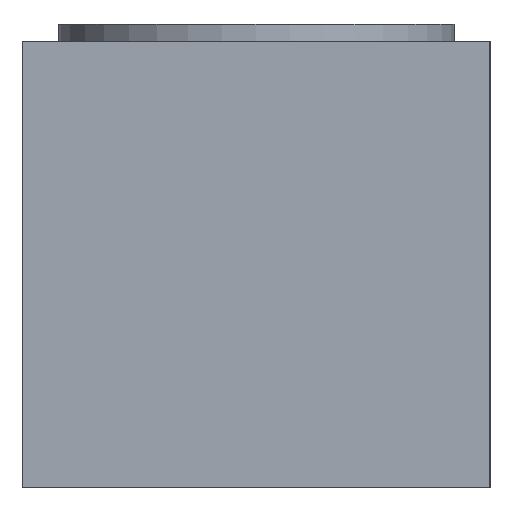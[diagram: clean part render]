
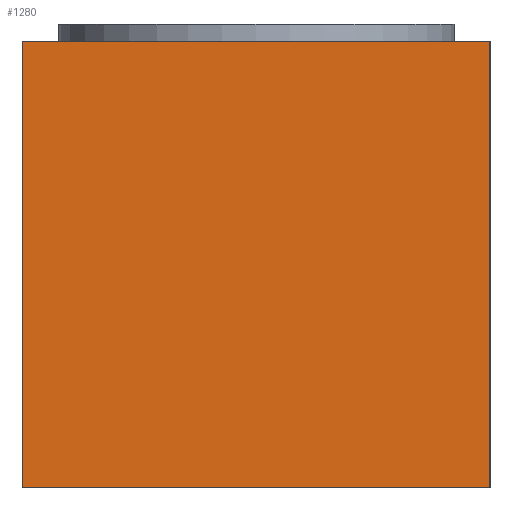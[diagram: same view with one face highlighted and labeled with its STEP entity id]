
A CAD part, left-side view. The second image highlights one B-rep face of the part: STEP entity #1280.
In plain terms, the highlighted planar face has unit normal (-1, 0, 0) as drawn and (1, 0, 0) by its records, which use the part's own axes.
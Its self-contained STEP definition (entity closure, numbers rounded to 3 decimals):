
#5 = DIRECTION ( 'NONE',  ( 0., 1., 0. ) ) ;
#79 = VECTOR ( 'NONE', #1978, 1000. ) ;
#90 = AXIS2_PLACEMENT_3D ( 'NONE', #1297, #343, #506 ) ;
#343 = DIRECTION ( 'NONE',  ( -1., 0., 0. ) ) ;
#368 = ORIENTED_EDGE ( 'NONE', *, *, #1012, .F. ) ;
#383 = EDGE_LOOP ( 'NONE', ( #874, #1049, #368, #1558 ) ) ;
#399 = VECTOR ( 'NONE', #1989, 1000. ) ;
#506 = DIRECTION ( 'NONE',  ( 0., 0., 1. ) ) ;
#521 = VECTOR ( 'NONE', #1642, 1000. ) ;
#523 = EDGE_CURVE ( 'NONE', #1864, #993, #1569, .T. ) ;
#648 = FACE_OUTER_BOUND ( 'NONE', #383, .T. ) ;
#690 = CARTESIAN_POINT ( 'NONE',  ( 26., 0., 0. ) ) ;
#703 = VERTEX_POINT ( 'NONE', #1066 ) ;
#871 = VERTEX_POINT ( 'NONE', #1859 ) ;
#874 = ORIENTED_EDGE ( 'NONE', *, *, #1503, .T. ) ;
#993 = VERTEX_POINT ( 'NONE', #1546 ) ;
#1012 = EDGE_CURVE ( 'NONE', #1864, #703, #1756, .T. ) ;
#1049 = ORIENTED_EDGE ( 'NONE', *, *, #1588, .F. ) ;
#1066 = CARTESIAN_POINT ( 'NONE',  ( 26., 24.8, 26. ) ) ;
#1255 = CARTESIAN_POINT ( 'NONE',  ( 26., 0., 26. ) ) ;
#1280 = ADVANCED_FACE ( 'NONE', ( #648 ), #1736, .F. ) ;
#1297 = CARTESIAN_POINT ( 'NONE',  ( 26., 0., 26. ) ) ;
#1338 = LINE ( 'NONE', #690, #521 ) ;
#1503 = EDGE_CURVE ( 'NONE', #993, #871, #1338, .T. ) ;
#1546 = CARTESIAN_POINT ( 'NONE',  ( 26., 0., 0. ) ) ;
#1558 = ORIENTED_EDGE ( 'NONE', *, *, #523, .T. ) ;
#1564 = CARTESIAN_POINT ( 'NONE',  ( 26., 0., 26. ) ) ;
#1569 = LINE ( 'NONE', #1564, #79 ) ;
#1588 = EDGE_CURVE ( 'NONE', #703, #871, #1607, .T. ) ;
#1607 = LINE ( 'NONE', #1838, #399 ) ;
#1642 = DIRECTION ( 'NONE',  ( 0., 1., 0. ) ) ;
#1662 = VECTOR ( 'NONE', #5, 1000. ) ;
#1736 = PLANE ( 'NONE',  #90 ) ;
#1756 = LINE ( 'NONE', #1255, #1662 ) ;
#1807 = CARTESIAN_POINT ( 'NONE',  ( 26., 0., 26. ) ) ;
#1838 = CARTESIAN_POINT ( 'NONE',  ( 26., 24.8, 26. ) ) ;
#1859 = CARTESIAN_POINT ( 'NONE',  ( 26., 24.8, 0. ) ) ;
#1864 = VERTEX_POINT ( 'NONE', #1807 ) ;
#1978 = DIRECTION ( 'NONE',  ( 0., 0., -1. ) ) ;
#1989 = DIRECTION ( 'NONE',  ( 0., 0., -1. ) ) ;
